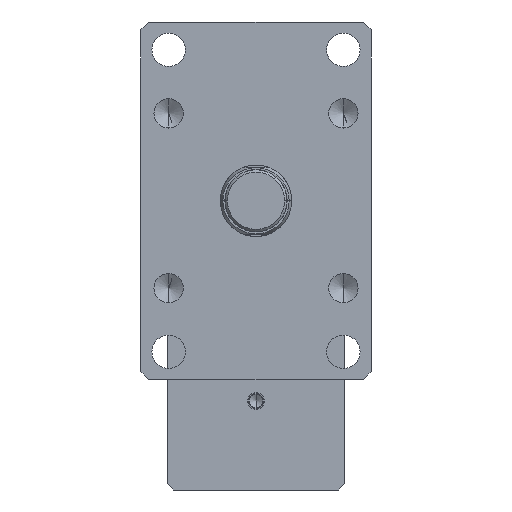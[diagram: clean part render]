
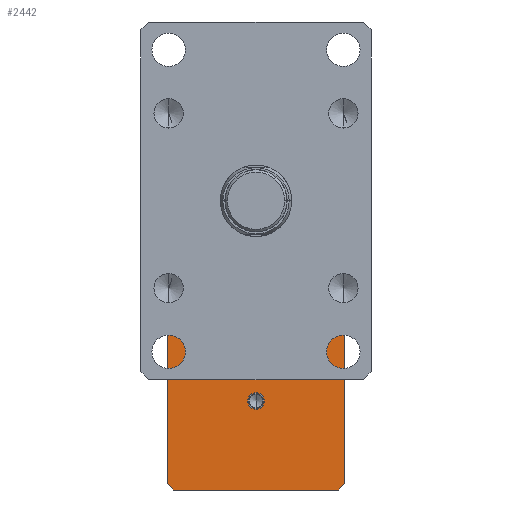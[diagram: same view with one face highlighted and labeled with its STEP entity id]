
A CAD part, left-side view. The second image highlights one B-rep face of the part: STEP entity #2442.
In plain terms, the highlighted planar face has unit normal (-1, 0, 0).
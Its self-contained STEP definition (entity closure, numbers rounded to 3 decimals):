
#117 = CARTESIAN_POINT ( 'NONE',  ( 375., -56., -74. ) ) ;
#311 = DIRECTION ( 'NONE',  ( 0., 0., 1. ) ) ;
#377 = VECTOR ( 'NONE', #3022, 1000. ) ;
#590 = CARTESIAN_POINT ( 'NONE',  ( 375., 56., -178. ) ) ;
#920 = DIRECTION ( 'NONE',  ( 0., 0., 1. ) ) ;
#927 = DIRECTION ( 'NONE',  ( 0., 0., -1. ) ) ;
#944 = VERTEX_POINT ( 'NONE', #8481 ) ;
#1237 = ORIENTED_EDGE ( 'NONE', *, *, #7719, .T. ) ;
#1282 = CIRCLE ( 'NONE', #6431, 5.143 ) ;
#1379 = CARTESIAN_POINT ( 'NONE',  ( 375., 56., -74. ) ) ;
#1480 = ORIENTED_EDGE ( 'NONE', *, *, #4358, .T. ) ;
#1678 = CARTESIAN_POINT ( 'NONE',  ( 375., -56., -70. ) ) ;
#1688 = DIRECTION ( 'NONE',  ( 0., -0.707, 0.707 ) ) ;
#2050 = VERTEX_POINT ( 'NONE', #10797 ) ;
#2221 = ORIENTED_EDGE ( 'NONE', *, *, #4270, .F. ) ;
#2442 = ADVANCED_FACE ( 'NONE', ( #7332, #12312 ), #12668, .F. ) ;
#2542 = EDGE_CURVE ( 'NONE', #944, #5546, #3788, .T. ) ;
#2652 = CARTESIAN_POINT ( 'NONE',  ( 375., -56., -182. ) ) ;
#2667 = DIRECTION ( 'NONE',  ( 0., 1., 0. ) ) ;
#2920 = CIRCLE ( 'NONE', #8878, 5.143 ) ;
#2933 = EDGE_CURVE ( 'NONE', #4813, #12534, #3444, .T. ) ;
#2973 = LINE ( 'NONE', #8926, #377 ) ;
#3022 = DIRECTION ( 'NONE',  ( 0., 0.707, 0.707 ) ) ;
#3176 = ORIENTED_EDGE ( 'NONE', *, *, #2933, .F. ) ;
#3178 = VERTEX_POINT ( 'NONE', #10940 ) ;
#3272 = EDGE_CURVE ( 'NONE', #9334, #4865, #10552, .T. ) ;
#3444 = LINE ( 'NONE', #2652, #8696 ) ;
#3692 = ORIENTED_EDGE ( 'NONE', *, *, #6743, .T. ) ;
#3747 = CARTESIAN_POINT ( 'NONE',  ( 375., 52., -182. ) ) ;
#3788 = LINE ( 'NONE', #10892, #6116 ) ;
#4270 = EDGE_CURVE ( 'NONE', #7958, #3178, #1282, .T. ) ;
#4272 = VERTEX_POINT ( 'NONE', #11742 ) ;
#4358 = EDGE_CURVE ( 'NONE', #5546, #2050, #2973, .T. ) ;
#4396 = ORIENTED_EDGE ( 'NONE', *, *, #9231, .F. ) ;
#4612 = ORIENTED_EDGE ( 'NONE', *, *, #10476, .T. ) ;
#4632 = DIRECTION ( 'NONE',  ( 0., 1., 0. ) ) ;
#4813 = VERTEX_POINT ( 'NONE', #12143 ) ;
#4826 = CARTESIAN_POINT ( 'NONE',  ( 375., -56., -182. ) ) ;
#4865 = VERTEX_POINT ( 'NONE', #1379 ) ;
#4959 = DIRECTION ( 'NONE',  ( 0., 0., 1. ) ) ;
#4991 = VECTOR ( 'NONE', #311, 1000. ) ;
#5256 = DIRECTION ( 'NONE',  ( -1., 0., 0. ) ) ;
#5257 = LINE ( 'NONE', #8590, #10204 ) ;
#5526 = DIRECTION ( 'NONE',  ( 0., 0.707, -0.707 ) ) ;
#5546 = VERTEX_POINT ( 'NONE', #117 ) ;
#6050 = LINE ( 'NONE', #1678, #11008 ) ;
#6074 = ORIENTED_EDGE ( 'NONE', *, *, #2542, .T. ) ;
#6116 = VECTOR ( 'NONE', #4959, 1000. ) ;
#6431 = AXIS2_PLACEMENT_3D ( 'NONE', #12754, #6809, #920 ) ;
#6743 = EDGE_CURVE ( 'NONE', #9334, #12534, #12565, .T. ) ;
#6809 = DIRECTION ( 'NONE',  ( -1., 0., 0. ) ) ;
#6818 = DIRECTION ( 'NONE',  ( 1., 0., 0. ) ) ;
#6890 = EDGE_LOOP ( 'NONE', ( #6074, #1480, #4612, #10588, #9648, #3692, #3176, #1237 ) ) ;
#6997 = VECTOR ( 'NONE', #9584, 1000. ) ;
#7332 = FACE_BOUND ( 'NONE', #7555, .T. ) ;
#7401 = VECTOR ( 'NONE', #5526, 1000. ) ;
#7555 = EDGE_LOOP ( 'NONE', ( #4396, #2221 ) ) ;
#7719 = EDGE_CURVE ( 'NONE', #4813, #944, #5257, .T. ) ;
#7958 = VERTEX_POINT ( 'NONE', #9150 ) ;
#8481 = CARTESIAN_POINT ( 'NONE',  ( 375., -56., -178. ) ) ;
#8590 = CARTESIAN_POINT ( 'NONE',  ( 375., -52., -182. ) ) ;
#8696 = VECTOR ( 'NONE', #4632, 1000. ) ;
#8878 = AXIS2_PLACEMENT_3D ( 'NONE', #11190, #5256, #12196 ) ;
#8926 = CARTESIAN_POINT ( 'NONE',  ( 375., -56., -74. ) ) ;
#9150 = CARTESIAN_POINT ( 'NONE',  ( 375., 0., -131.143 ) ) ;
#9231 = EDGE_CURVE ( 'NONE', #3178, #7958, #2920, .T. ) ;
#9334 = VERTEX_POINT ( 'NONE', #590 ) ;
#9458 = CARTESIAN_POINT ( 'NONE',  ( 375., 56., -74. ) ) ;
#9584 = DIRECTION ( 'NONE',  ( 0., -0.707, -0.707 ) ) ;
#9648 = ORIENTED_EDGE ( 'NONE', *, *, #3272, .F. ) ;
#10056 = LINE ( 'NONE', #9458, #7401 ) ;
#10204 = VECTOR ( 'NONE', #1688, 1000. ) ;
#10402 = AXIS2_PLACEMENT_3D ( 'NONE', #4826, #6818, #927 ) ;
#10476 = EDGE_CURVE ( 'NONE', #2050, #4272, #6050, .T. ) ;
#10552 = LINE ( 'NONE', #12112, #4991 ) ;
#10588 = ORIENTED_EDGE ( 'NONE', *, *, #11981, .T. ) ;
#10797 = CARTESIAN_POINT ( 'NONE',  ( 375., -52., -70. ) ) ;
#10892 = CARTESIAN_POINT ( 'NONE',  ( 375., -56., -182. ) ) ;
#10940 = CARTESIAN_POINT ( 'NONE',  ( 375., 0., -120.857 ) ) ;
#11008 = VECTOR ( 'NONE', #2667, 1000. ) ;
#11190 = CARTESIAN_POINT ( 'NONE',  ( 375., 0., -126. ) ) ;
#11595 = CARTESIAN_POINT ( 'NONE',  ( 375., 52., -182. ) ) ;
#11742 = CARTESIAN_POINT ( 'NONE',  ( 375., 52., -70. ) ) ;
#11981 = EDGE_CURVE ( 'NONE', #4272, #4865, #10056, .T. ) ;
#12112 = CARTESIAN_POINT ( 'NONE',  ( 375., 56., -182. ) ) ;
#12143 = CARTESIAN_POINT ( 'NONE',  ( 375., -52., -182. ) ) ;
#12196 = DIRECTION ( 'NONE',  ( 0., 0., 1. ) ) ;
#12312 = FACE_OUTER_BOUND ( 'NONE', #6890, .T. ) ;
#12534 = VERTEX_POINT ( 'NONE', #3747 ) ;
#12565 = LINE ( 'NONE', #11595, #6997 ) ;
#12668 = PLANE ( 'NONE',  #10402 ) ;
#12754 = CARTESIAN_POINT ( 'NONE',  ( 375., 0., -126. ) ) ;
